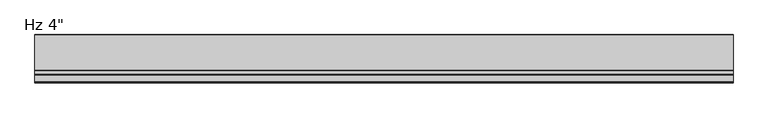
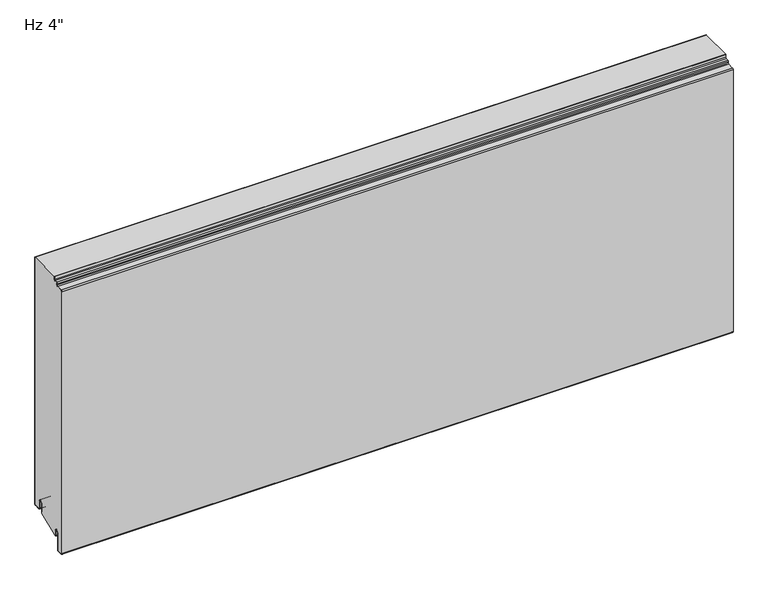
"""IFC4 building model written with IfcOpenShell, lengths in millimetres: plate geometry."""

from ifc_helpers import new_model, si_unit, point, frame, frame_2d, origin, place, context, project, spatial, polyline, circle_curve, trimmed, segment, composite_curve, outline, extrude, source, transform, mapped, element, save


def plate_54af91b3(model_context):
    return source(origin(), model_context, "Body", "SweptSolid", [
        extrude(outline(composite_curve([segment(trimmed(circle_curve(frame_2d((-21.43125, 19.05)), 4.96875), [point((-16.4625, 19.05))], [point((-26.4, 19.05))], True, "CARTESIAN"), True, "CONTINUOUS"), segment(polyline([(-26.4, 19.05), (-26.4, -3.1323422), (-74.6157227, -23.01875), (-76.2, -23.01875), (-76.2, -13.5080174), (-76.99375, -13.5080174), (-76.7875, -11.9205174)]), True, "CONTINUOUS"), segment(trimmed(circle_curve(frame_2d((-81.75625, -11.9205174)), 4.96875), [point((-76.7875, -11.9205174))], [point((-86.725, -11.9205174))], True, "CARTESIAN"), True, "CONTINUOUS"), segment(polyline([(-86.725, -11.9205174), (-86.725, -50.1038221)]), True, "CONTINUOUS"), segment(trimmed(circle_curve(frame_2d((-88.10625, -50.1038221)), 1.38125), [point((-86.725, -50.1038221))], [point((-88.033961, -51.4831791))], False, "CARTESIAN"), True, "CONTINUOUS"), segment(polyline([(-88.033961, -51.4831791), (-99.146461, -52.0655606)]), True, "CONTINUOUS"), segment(trimmed(circle_curve(frame_2d((-99.21875, -50.6862035)), 1.38125), [point((-99.146461, -52.0655606))], [point((-100.6, -50.6862035))], False, "CARTESIAN"), True, "CONTINUOUS"), segment(polyline([(-100.6, -50.6862035), (-100.6, 552.5572607)]), True, "CONTINUOUS"), segment(trimmed(circle_curve(frame_2d((-99.21875, 552.5572607)), 1.38125), [point((-100.6, 552.5572607))], [point((-99.291039, 553.9366177))], False, "CARTESIAN"), True, "CONTINUOUS"), segment(polyline([(-99.291039, 553.9366177), (-85.5895807, 554.6546807)]), True, "CONTINUOUS"), segment(trimmed(circle_curve(frame_2d((-85.725, 557.2386347)), 2.5875), [point((-85.5895807, 554.6546807))], [point((-83.1375, 557.2386347))], True, "CARTESIAN"), True, "CONTINUOUS"), segment(polyline([(-83.1375, 557.2386347), (-83.1375, 560.2824411)]), True, "CONTINUOUS"), segment(trimmed(circle_curve(frame_2d((-81.75625, 560.2824411)), 1.38125), [point((-83.1375, 560.2824411))], [point((-81.828539, 561.6617981))], False, "CARTESIAN"), True, "CONTINUOUS"), segment(polyline([(-81.828539, 561.6617981), (-76.0645807, 561.9638744)]), True, "CONTINUOUS"), segment(trimmed(circle_curve(frame_2d((-76.2, 564.5478283)), 2.5875), [point((-76.0645807, 561.9638744))], [point((-73.6125, 564.5478283))], True, "CARTESIAN"), True, "CONTINUOUS"), segment(polyline([(-73.6125, 564.5478283), (-73.6125, 571.2), (-1.0, 571.2), (-1.0, 3.175)]), True, "CONTINUOUS"), segment(trimmed(circle_curve(frame_2d((-2.38125, 3.175)), 1.38125), [point((-1.0, 3.175))], [point((-2.38125, 1.79375))], False, "CARTESIAN"), True, "CONTINUOUS"), segment(polyline([(-2.38125, 1.79375), (-15.08125, 1.79375)]), True, "CONTINUOUS"), segment(trimmed(circle_curve(frame_2d((-15.08125, 3.175)), 1.38125), [point((-15.08125, 1.79375))], [point((-16.4625, 3.175))], False, "CARTESIAN"), True, "CONTINUOUS"), segment(polyline([(-16.4625, 3.175), (-16.4625, 19.05)]), True, "CONTINUOUS")], self_intersect=False)), frame((-730.0, 0.0, 0.0), z_axis=(1.0, 0.0, 0.0), x_axis=(0.0, 1.0, 0.0)), (0.0, 0.0, 1.0), 1460.0),
        extrude(outline(composite_curve([segment(polyline([(-25.4, 0.79375), (-26.4, 0.79375), (-26.4, 19.05)]), True, "CONTINUOUS"), segment(trimmed(circle_curve(frame_2d((-21.43125, 19.05)), 4.96875), [point((-26.4, 19.05))], [point((-16.4625, 19.05))], False, "CARTESIAN"), True, "CONTINUOUS"), segment(polyline([(-16.4625, 19.05), (-16.4625, 3.175)]), True, "CONTINUOUS"), segment(trimmed(circle_curve(frame_2d((-15.08125, 3.175)), 1.38125), [point((-16.4625, 3.175))], [point((-15.08125, 1.79375))], True, "CARTESIAN"), True, "CONTINUOUS"), segment(polyline([(-15.08125, 1.79375), (-2.38125, 1.79375)]), True, "CONTINUOUS"), segment(trimmed(circle_curve(frame_2d((-2.38125, 3.175)), 1.38125), [point((-2.38125, 1.79375))], [point((-1.0, 3.175))], True, "CARTESIAN"), True, "CONTINUOUS"), segment(polyline([(-1.0, 3.175), (-1.0, 571.2), (0.0, 571.2), (0.0, 3.175)]), True, "CONTINUOUS"), segment(trimmed(circle_curve(frame_2d((-2.38125, 3.175)), 2.38125), [point((0.0, 3.175))], [point((-2.38125, 0.79375))], False, "CARTESIAN"), True, "CONTINUOUS"), segment(polyline([(-2.38125, 0.79375), (-15.08125, 0.79375)]), True, "CONTINUOUS"), segment(trimmed(circle_curve(frame_2d((-15.08125, 3.175)), 2.38125), [point((-15.08125, 0.79375))], [point((-17.4625, 3.175))], False, "CARTESIAN"), True, "CONTINUOUS"), segment(polyline([(-17.4625, 3.175), (-17.4625, 19.05)]), True, "CONTINUOUS"), segment(trimmed(circle_curve(frame_2d((-21.43125, 19.05)), 3.96875), [point((-17.4625, 19.05))], [point((-25.4, 19.05))], True, "CARTESIAN"), True, "CONTINUOUS"), segment(polyline([(-25.4, 19.05), (-25.4, 0.79375)]), True, "CONTINUOUS")], self_intersect=False)), frame((-730.0, 0.0, 0.0), z_axis=(1.0, 0.0, 0.0), x_axis=(0.0, 1.0, 0.0)), (0.0, 0.0, 1.0), 1460.0),
        extrude(outline(composite_curve([segment(trimmed(circle_curve(frame_2d((-76.99375, -23.2314549)), 0.79375), [point((-76.2, -23.2314549))], [point((-77.7875, -23.2314549))], False, "CARTESIAN"), True, "CONTINUOUS"), segment(polyline([(-77.7875, -23.2314549), (-77.7875, -11.9205174)]), True, "CONTINUOUS"), segment(trimmed(circle_curve(frame_2d((-81.75625, -11.9205174)), 3.96875), [point((-77.7875, -11.9205174))], [point((-85.725, -11.9205174))], True, "CARTESIAN"), True, "CONTINUOUS"), segment(polyline([(-85.725, -11.9205174), (-85.725, -50.1038221)]), True, "CONTINUOUS"), segment(trimmed(circle_curve(frame_2d((-88.10625, -50.1038221)), 2.38125), [point((-85.725, -50.1038221))], [point((-87.981625, -52.4818086))], False, "CARTESIAN"), True, "CONTINUOUS"), segment(polyline([(-87.981625, -52.4818086), (-99.094125, -53.0641901)]), True, "CONTINUOUS"), segment(trimmed(circle_curve(frame_2d((-99.21875, -50.6862035)), 2.38125), [point((-99.094125, -53.0641901))], [point((-101.6, -50.6862035))], False, "CARTESIAN"), True, "CONTINUOUS"), segment(polyline([(-101.6, -50.6862035), (-101.6, 552.5572607)]), True, "CONTINUOUS"), segment(trimmed(circle_curve(frame_2d((-99.21875, 552.5572607)), 2.38125), [point((-101.6, 552.5572607))], [point((-99.343375, 554.9352473))], False, "CARTESIAN"), True, "CONTINUOUS"), segment(polyline([(-99.343375, 554.9352473), (-85.6419167, 555.6533103)]), True, "CONTINUOUS"), segment(trimmed(circle_curve(frame_2d((-85.725, 557.2386347)), 1.5875), [point((-85.6419167, 555.6533103))], [point((-84.1375, 557.2386347))], True, "CARTESIAN"), True, "CONTINUOUS"), segment(polyline([(-84.1375, 557.2386347), (-84.1375, 560.2824411)]), True, "CONTINUOUS"), segment(trimmed(circle_curve(frame_2d((-81.75625, 560.2824411)), 2.38125), [point((-84.1375, 560.2824411))], [point((-81.880875, 562.6604276))], False, "CARTESIAN"), True, "CONTINUOUS"), segment(polyline([(-81.880875, 562.6604276), (-76.1169167, 562.9625039)]), True, "CONTINUOUS"), segment(trimmed(circle_curve(frame_2d((-76.2, 564.5478283)), 1.5875), [point((-76.1169167, 562.9625039))], [point((-74.6125, 564.5478283))], True, "CARTESIAN"), True, "CONTINUOUS"), segment(polyline([(-74.6125, 564.5478283), (-74.6125, 571.2), (-73.6125, 571.2), (-73.6125, 564.5478283)]), True, "CONTINUOUS"), segment(trimmed(circle_curve(frame_2d((-76.2, 564.5478283)), 2.5875), [point((-73.6125, 564.5478283))], [point((-76.0645807, 561.9638744))], False, "CARTESIAN"), True, "CONTINUOUS"), segment(polyline([(-76.0645807, 561.9638744), (-81.828539, 561.6617981)]), True, "CONTINUOUS"), segment(trimmed(circle_curve(frame_2d((-81.75625, 560.2824411)), 1.38125), [point((-81.828539, 561.6617981))], [point((-83.1375, 560.2824411))], True, "CARTESIAN"), True, "CONTINUOUS"), segment(polyline([(-83.1375, 560.2824411), (-83.1375, 557.2386347)]), True, "CONTINUOUS"), segment(trimmed(circle_curve(frame_2d((-85.725, 557.2386347)), 2.5875), [point((-83.1375, 557.2386347))], [point((-85.5895807, 554.6546807))], False, "CARTESIAN"), True, "CONTINUOUS"), segment(polyline([(-85.5895807, 554.6546807), (-99.291039, 553.9366177)]), True, "CONTINUOUS"), segment(trimmed(circle_curve(frame_2d((-99.21875, 552.5572607)), 1.38125), [point((-99.291039, 553.9366177))], [point((-100.6, 552.5572607))], True, "CARTESIAN"), True, "CONTINUOUS"), segment(polyline([(-100.6, 552.5572607), (-100.6, -50.6862035)]), True, "CONTINUOUS"), segment(trimmed(circle_curve(frame_2d((-99.21875, -50.6862035)), 1.38125), [point((-100.6, -50.6862035))], [point((-99.146461, -52.0655606))], True, "CARTESIAN"), True, "CONTINUOUS"), segment(polyline([(-99.146461, -52.0655606), (-88.033961, -51.4831791)]), True, "CONTINUOUS"), segment(trimmed(circle_curve(frame_2d((-88.10625, -50.1038221)), 1.38125), [point((-88.033961, -51.4831791))], [point((-86.725, -50.1038221))], True, "CARTESIAN"), True, "CONTINUOUS"), segment(polyline([(-86.725, -50.1038221), (-86.725, -11.9205174)]), True, "CONTINUOUS"), segment(trimmed(circle_curve(frame_2d((-81.75625, -11.9205174)), 4.96875), [point((-86.725, -11.9205174))], [point((-76.7875, -11.9205174))], False, "CARTESIAN"), True, "CONTINUOUS"), segment(polyline([(-76.7875, -11.9205174), (-76.99375, -13.5080174), (-76.2, -13.5080174), (-76.2, -23.2314549)]), True, "CONTINUOUS")], self_intersect=False)), frame((-730.0, 0.0, 0.0), z_axis=(1.0, 0.0, 0.0), x_axis=(0.0, 1.0, 0.0)), (0.0, 0.0, 1.0), 1460.0),
    ])


if __name__ == "__main__":
    model = new_model("IFC4")
    model_context = context("Model", 3, world=origin())
    ifc_project = project(units=[si_unit("LENGTHUNIT", "METRE", prefix="MILLI")], contexts=[model_context])
    site = spatial("IfcSite", under=ifc_project)
    building = spatial("IfcBuilding", under=site)
    placement = place(None, origin())
    plate_shape = plate_54af91b3(model_context)
    element("IfcPlate", 1, ObjectType="KIP-24-DWTR-R19-CP-Hz-F : Hz 4\"", at=placement, inside=building, context=model_context, shape_type="MappedRepresentation", body=[
        mapped(plate_shape, transform((0.0, 0.0, 0.0), x_axis=(1.0, 0.0, 0.0), y_axis=(0.0, 1.0, 0.0), z_axis=(0.0, 0.0, 1.0))),
    ])
    save(model, "model.ifc")
